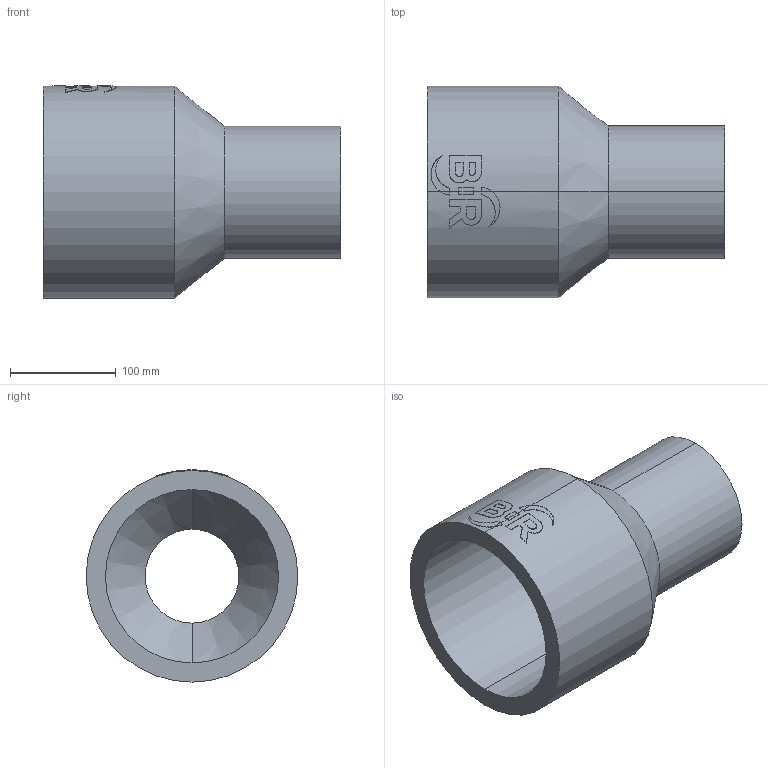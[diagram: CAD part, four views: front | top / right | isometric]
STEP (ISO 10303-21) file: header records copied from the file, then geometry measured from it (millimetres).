
FILE_DESCRIPTION (( 'STEP AP214' ), '1' );
FILE_NAME ('2323191515.STEP', '2018-07-20T09:52:52', ( '' ), ( '' ), 'SwSTEP 2.0', 'SolidWorks 2017', '' );
FILE_SCHEMA (( 'AUTOMOTIVE_DESIGN' ));
Length unit declared in the file: millimetre
Products named in the file (1): 2323191515
Bounding box: 281 x 200 x 200.46 mm (x, y, z)
Volume: 2443832.7 mm3; surface area: 285245.2 mm2
Topology: 1 solids, 1 shells, 63 faces, 160 edges, 104 vertices
Faces by surface type: cylinder 31, plane 28, cone 4
Entity records: 3293 total; most frequent: CARTESIAN_POINT 1084, ORIENTED_EDGE 320, DIRECTION 296, EDGE_CURVE 160, AXIS2_PLACEMENT_3D 112, VERTEX_POINT 104, VECTOR 72, LINE 72
